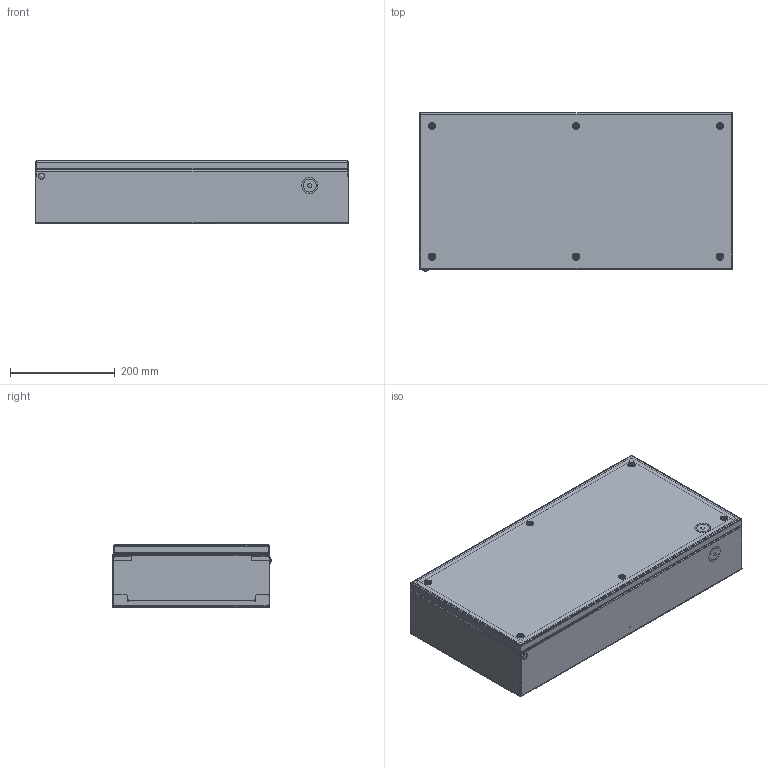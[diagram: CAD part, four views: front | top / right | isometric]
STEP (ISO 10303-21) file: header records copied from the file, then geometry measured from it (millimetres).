
FILE_DESCRIPTION (( 'STEP AP203' ), '1' );
FILE_NAME ('BCS 30.60.12-L Êîðîáêà êëåììíàÿ.STEP', '2025-05-06T09:34:01', ( '' ), ( '' ), 'SwSTEP 2.0', 'SolidWorks 2019', '' );
FILE_SCHEMA (( 'CONFIG_CONTROL_DESIGN' ));
Length unit declared in the file: millimetre
Products named in the file (15): ﾘ琺矜 5 ﾃﾎﾑﾒ 11371-78_Washer DIN 126 - 5.5; Essentra_d9.3_055009300003; 妈眚 礤恹镟溧栝 镱蜞轫铋 梦岩 10339-80_M5x32; Ãàéêà çàêëàäíàÿ êâàäðàòíàÿ îö. Ì5_ƒ ©ª  § ª« ¤­ ï ª¢ ¤à â­ ï ®æ. Œ5 1,7-2,7; BÑS X.Y.02.001-L Êðûøêà êëåììíàÿ_B‘S 30.60.02.001-L; BCS X.Y.12.01.001 暑痫篑_BCS 30.60.12.01.001 姰喁汜; BÑS X.Y.02.000-L ÑÁ Êðûøêà êëåììíàÿ_B‘S 30.60.02.000-L; 妈眚 襦祛磬疱玎栝_4,8x11; BCS X.002 ﾊ煇鳫_BCS 30.002 癌ｮｭ鞣･ｩｭ; B裇 Y.004-L 鱼铍铌_B慡 60.004-L; B裇 X.Y.Z.01.000-L 蚜 暑痫篑 觌屐祉 疋囵眍開BCS 30.60.12.01.000-L; MPB X.Y.001 Ìîíòàæíàÿ ïàíåëü_MPB 30.60.001 Œ®­â ¦­ ï ¯ ­¥«ì; Øïèëüêà çàçåìëåíèÿ Ì6õ17,5_v.2_˜¯¨«ìª  § §¥¬«¥­¨ï Œ6å17,5 á ª®«¯ çª®¬; BCS X.003 ﾊ煇鳫 裝湜饑BCS 30.003 癌ｮｭ鞣･ｩｭ 矜･､ｭｨｩ; BCS 30.60.12-L Êîðîáêà êëåììíàÿ
Assembly tree (37 placements, depth 3):
  BCS 30.60.12-L Êîðîáêà êëåììíàÿ
    B裇 X.Y.Z.01.000-L 蚜 暑痫篑 觌屐祉 疋囵眍開BCS 30.60.12.01.000-L
      BCS X.Y.12.01.001 暑痫篑_BCS 30.60.12.01.001 姰喁汜
      BCS X.002 ﾊ煇鳫_BCS 30.002 癌ｮｭ鞣･ｩｭ  x2
      Øïèëüêà çàçåìëåíèÿ Ì6õ17,5_v.2_˜¯¨«ìª  § §¥¬«¥­¨ï Œ6å17,5 á ª®«¯ çª®¬
      B裇 Y.004-L 鱼铍铌_B慡 60.004-L  x2
      BCS X.003 ﾊ煇鳫 裝湜饑BCS 30.003 癌ｮｭ鞣･ｩｭ 矜･､ｭｨｩ
    BÑS X.Y.02.000-L ÑÁ Êðûøêà êëåììíàÿ_B‘S 30.60.02.000-L
      BÑS X.Y.02.001-L Êðûøêà êëåììíàÿ_B‘S 30.60.02.001-L
      Øïèëüêà çàçåìëåíèÿ Ì6õ17,5_v.2_˜¯¨«ìª  § §¥¬«¥­¨ï Œ6å17,5 á ª®«¯ çª®¬
    MPB X.Y.001 Ìîíòàæíàÿ ïàíåëü_MPB 30.60.001 Œ®­â ¦­ ï ¯ ­¥«ì
    妈眚 襦祛磬疱玎栝_4,8x11  x6
    ﾘ琺矜 5 ﾃﾎﾑﾒ 11371-78_Washer DIN 126 - 5.5  x6
    妈眚 礤恹镟溧栝 镱蜞轫铋 梦岩 10339-80_M5x32  x6
    Ãàéêà çàêëàäíàÿ êâàäðàòíàÿ îö. Ì5_ƒ ©ª  § ª« ¤­ ï ª¢ ¤à â­ ï ®æ. Œ5 1,7-2,7  x6
    Essentra_d9.3_055009300003
Bounding box: 600 x 302.5 x 121.5 mm (x, y, z)
Volume: 1169730.7 mm3; surface area: 1711114.4 mm2
Topology: 44 solids, 44 shells, 2343 faces, 5717 edges, 3481 vertices
Faces by surface type: plane 1262, cylinder 794, cone 128, bspline 102, torus 56, sphere 1
Entity records: 37144 total; most frequent: CARTESIAN_POINT 10691, ORIENTED_EDGE 5078, DIRECTION 5032, EDGE_CURVE 2539, AXIS2_PLACEMENT_3D 1811, VERTEX_POINT 1569, LINE 1410, VECTOR 1410
